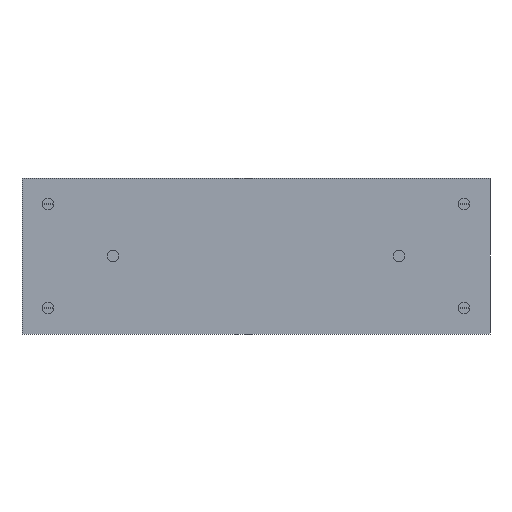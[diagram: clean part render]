
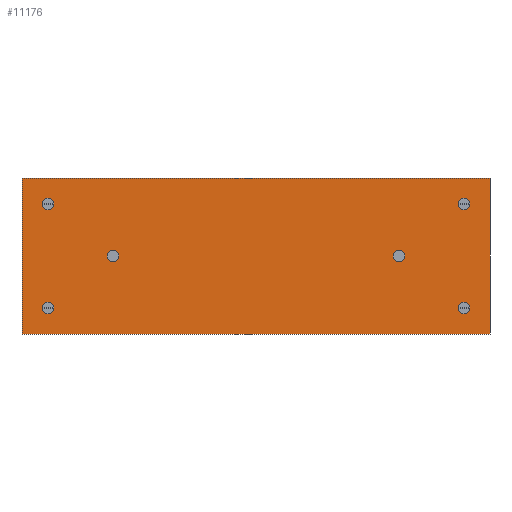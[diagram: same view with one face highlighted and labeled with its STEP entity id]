
A CAD part, front view. The second image highlights one B-rep face of the part: STEP entity #11176.
In plain terms, the highlighted planar face has unit normal (0, -1, 0).
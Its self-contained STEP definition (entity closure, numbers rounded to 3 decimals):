
#420=CIRCLE('',#11830,2.25);
#421=CIRCLE('',#11831,2.25);
#422=CIRCLE('',#11832,2.25);
#423=CIRCLE('',#11833,2.25);
#424=CIRCLE('',#11834,2.25);
#425=CIRCLE('',#11835,2.25);
#1172=ORIENTED_EDGE('',*,*,#4613,.F.);
#1173=ORIENTED_EDGE('',*,*,#4614,.F.);
#1174=ORIENTED_EDGE('',*,*,#4615,.T.);
#1175=ORIENTED_EDGE('',*,*,#4616,.F.);
#1176=ORIENTED_EDGE('',*,*,#4617,.F.);
#1177=ORIENTED_EDGE('',*,*,#4618,.F.);
#1178=ORIENTED_EDGE('',*,*,#4566,.T.);
#1179=ORIENTED_EDGE('',*,*,#4619,.F.);
#1180=ORIENTED_EDGE('',*,*,#4620,.F.);
#1181=ORIENTED_EDGE('',*,*,#4611,.T.);
#4566=EDGE_CURVE('',#6293,#6292,#7456,.T.);
#4611=EDGE_CURVE('',#6328,#6293,#7499,.T.);
#4613=EDGE_CURVE('',#6329,#6329,#420,.T.);
#4614=EDGE_CURVE('',#6330,#6330,#421,.T.);
#4615=EDGE_CURVE('',#6331,#6331,#422,.T.);
#4616=EDGE_CURVE('',#6332,#6332,#423,.T.);
#4617=EDGE_CURVE('',#6333,#6333,#424,.T.);
#4618=EDGE_CURVE('',#6334,#6334,#425,.T.);
#4619=EDGE_CURVE('',#6335,#6292,#7501,.T.);
#4620=EDGE_CURVE('',#6328,#6335,#7502,.T.);
#6292=VERTEX_POINT('',#16846);
#6293=VERTEX_POINT('',#16848);
#6328=VERTEX_POINT('',#16935);
#6329=VERTEX_POINT('',#16939);
#6330=VERTEX_POINT('',#16941);
#6331=VERTEX_POINT('',#16943);
#6332=VERTEX_POINT('',#16945);
#6333=VERTEX_POINT('',#16947);
#6334=VERTEX_POINT('',#16949);
#6335=VERTEX_POINT('',#16951);
#7456=LINE('',#16847,#8466);
#7499=LINE('',#16934,#8509);
#7501=LINE('',#16950,#8511);
#7502=LINE('',#16952,#8512);
#8466=VECTOR('',#13173,1000.);
#8509=VECTOR('',#13234,1000.);
#8511=VECTOR('',#13250,1000.);
#8512=VECTOR('',#13251,1000.);
#9461=EDGE_LOOP('',(#1172));
#9462=EDGE_LOOP('',(#1173));
#9463=EDGE_LOOP('',(#1174));
#9464=EDGE_LOOP('',(#1175));
#9465=EDGE_LOOP('',(#1176));
#9466=EDGE_LOOP('',(#1177));
#9467=EDGE_LOOP('',(#1178,#1179,#1180,#1181));
#10177=FACE_BOUND('',#9461,.T.);
#10178=FACE_BOUND('',#9462,.T.);
#10179=FACE_BOUND('',#9463,.T.);
#10180=FACE_BOUND('',#9464,.T.);
#10181=FACE_BOUND('',#9465,.T.);
#10182=FACE_BOUND('',#9466,.T.);
#10183=FACE_BOUND('',#9467,.T.);
#10891=PLANE('',#11829);
#11176=ADVANCED_FACE('',(#10177,#10178,#10179,#10180,#10181,#10182,#10183),
#10891,.F.);
#11829=AXIS2_PLACEMENT_3D('',#16937,#13236,#13237);
#11830=AXIS2_PLACEMENT_3D('',#16938,#13238,#13239);
#11831=AXIS2_PLACEMENT_3D('',#16940,#13240,#13241);
#11832=AXIS2_PLACEMENT_3D('',#16942,#13242,#13243);
#11833=AXIS2_PLACEMENT_3D('',#16944,#13244,#13245);
#11834=AXIS2_PLACEMENT_3D('',#16946,#13246,#13247);
#11835=AXIS2_PLACEMENT_3D('',#16948,#13248,#13249);
#13173=DIRECTION('',(0.,0.,-1.));
#13234=DIRECTION('',(-1.,0.,0.));
#13236=DIRECTION('',(0.,1.,0.));
#13237=DIRECTION('',(0.,0.,1.));
#13238=DIRECTION('',(0.,-1.,0.));
#13239=DIRECTION('',(0.,0.,-1.));
#13240=DIRECTION('',(0.,-1.,0.));
#13241=DIRECTION('',(0.,0.,-1.));
#13242=DIRECTION('',(0.,1.,0.));
#13243=DIRECTION('',(0.,0.,1.));
#13244=DIRECTION('',(0.,-1.,0.));
#13245=DIRECTION('',(0.,0.,-1.));
#13246=DIRECTION('',(0.,-1.,0.));
#13247=DIRECTION('',(0.,0.,-1.));
#13248=DIRECTION('',(0.,-1.,0.));
#13249=DIRECTION('',(0.,0.,-1.));
#13250=DIRECTION('',(-1.,0.,0.));
#13251=DIRECTION('',(0.,0.,-1.));
#16846=CARTESIAN_POINT('',(0.,0.,-30.));
#16847=CARTESIAN_POINT('',(0.,0.,30.));
#16848=CARTESIAN_POINT('',(0.,0.,30.));
#16934=CARTESIAN_POINT('',(180.,0.,30.));
#16935=CARTESIAN_POINT('',(180.,0.,30.));
#16937=CARTESIAN_POINT('',(180.,0.,30.));
#16938=CARTESIAN_POINT('',(145.,0.,0.));
#16939=CARTESIAN_POINT('',(145.,0.,-2.25));
#16940=CARTESIAN_POINT('',(35.,0.,0.));
#16941=CARTESIAN_POINT('',(35.,0.,-2.25));
#16942=CARTESIAN_POINT('',(170.,0.,20.));
#16943=CARTESIAN_POINT('',(170.,0.,22.25));
#16944=CARTESIAN_POINT('',(170.,0.,-20.));
#16945=CARTESIAN_POINT('',(170.,0.,-22.25));
#16946=CARTESIAN_POINT('',(10.,0.,-20.));
#16947=CARTESIAN_POINT('',(10.,0.,-22.25));
#16948=CARTESIAN_POINT('',(10.,0.,20.));
#16949=CARTESIAN_POINT('',(10.,0.,17.75));
#16950=CARTESIAN_POINT('',(180.,0.,-30.));
#16951=CARTESIAN_POINT('',(180.,0.,-30.));
#16952=CARTESIAN_POINT('',(180.,0.,30.));
